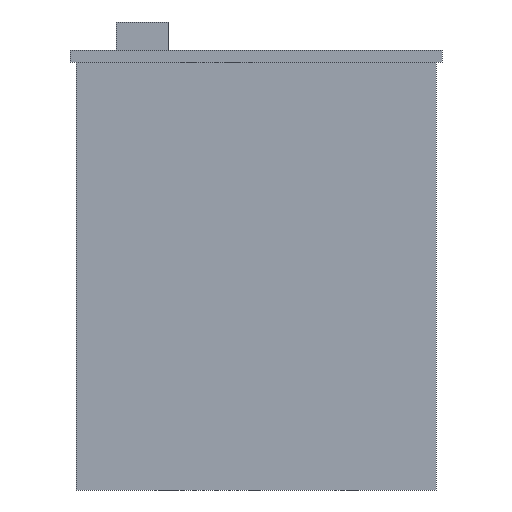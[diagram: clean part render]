
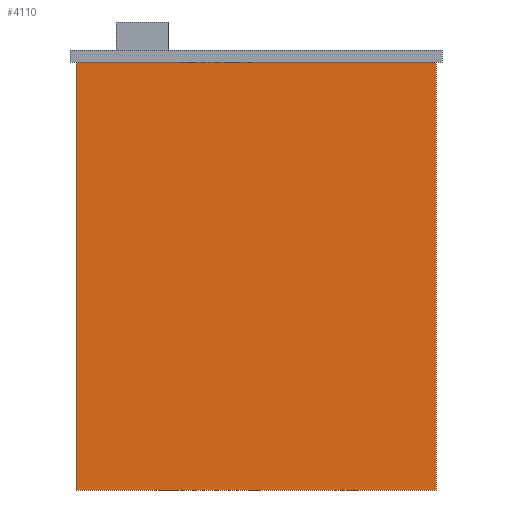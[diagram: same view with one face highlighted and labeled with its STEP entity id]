
A CAD part, left-side view. The second image highlights one B-rep face of the part: STEP entity #4110.
In plain terms, the highlighted planar face has unit normal (-1, 0, 0).
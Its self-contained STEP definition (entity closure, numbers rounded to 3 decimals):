
#1026 = PLANE('',#1027);
#1027 = AXIS2_PLACEMENT_3D('',#1028,#1029,#1030);
#1028 = CARTESIAN_POINT('',(-93.,-93.,220.));
#1029 = DIRECTION('',(0.,0.,1.));
#1030 = DIRECTION('',(1.,0.,0.));
#2404 = VERTEX_POINT('',#2405);
#2405 = CARTESIAN_POINT('',(-90.,-90.,220.));
#2418 = PLANE('',#2419);
#2419 = AXIS2_PLACEMENT_3D('',#2420,#2421,#2422);
#2420 = CARTESIAN_POINT('',(-90.,-90.,6.));
#2421 = DIRECTION('',(0.,1.,0.));
#2422 = DIRECTION('',(0.,0.,1.));
#2429 = EDGE_CURVE('',#2430,#2404,#2432,.T.);
#2430 = VERTEX_POINT('',#2431);
#2431 = CARTESIAN_POINT('',(-90.,90.,220.));
#2432 = SURFACE_CURVE('',#2433,(#2437,#2443),.PCURVE_S1.);
#2433 = LINE('',#2434,#2435);
#2434 = CARTESIAN_POINT('',(-90.,-91.5,220.));
#2435 = VECTOR('',#2436,1.);
#2436 = DIRECTION('',(0.,-1.,0.));
#2437 = PCURVE('',#1026,#2438);
#2438 = DEFINITIONAL_REPRESENTATION('',(#2439),#2442);
#2439 = B_SPLINE_CURVE_WITH_KNOTS('',1,(#2440,#2441),.UNSPECIFIED.,.F.,
  .F.,(2,2),(-181.5,-1.5),.PIECEWISE_BEZIER_KNOTS.);
#2440 = CARTESIAN_POINT('',(3.,183.));
#2441 = CARTESIAN_POINT('',(3.,3.));
#2442 = ( GEOMETRIC_REPRESENTATION_CONTEXT(2) 
PARAMETRIC_REPRESENTATION_CONTEXT() REPRESENTATION_CONTEXT('2D SPACE',''
  ) );
#2443 = PCURVE('',#2444,#2449);
#2444 = PLANE('',#2445);
#2445 = AXIS2_PLACEMENT_3D('',#2446,#2447,#2448);
#2446 = CARTESIAN_POINT('',(-90.,-90.,6.));
#2447 = DIRECTION('',(1.,0.,0.));
#2448 = DIRECTION('',(0.,0.,1.));
#2449 = DEFINITIONAL_REPRESENTATION('',(#2450),#2453);
#2450 = B_SPLINE_CURVE_WITH_KNOTS('',1,(#2451,#2452),.UNSPECIFIED.,.F.,
  .F.,(2,2),(-181.5,-1.5),.PIECEWISE_BEZIER_KNOTS.);
#2451 = CARTESIAN_POINT('',(214.,-180.));
#2452 = CARTESIAN_POINT('',(214.,0.));
#2453 = ( GEOMETRIC_REPRESENTATION_CONTEXT(2) 
PARAMETRIC_REPRESENTATION_CONTEXT() REPRESENTATION_CONTEXT('2D SPACE',''
  ) );
#2470 = PLANE('',#2471);
#2471 = AXIS2_PLACEMENT_3D('',#2472,#2473,#2474);
#2472 = CARTESIAN_POINT('',(-90.,90.,6.));
#2473 = DIRECTION('',(0.,1.,0.));
#2474 = DIRECTION('',(0.,0.,1.));
#2564 = PLANE('',#2565);
#2565 = AXIS2_PLACEMENT_3D('',#2566,#2567,#2568);
#2566 = CARTESIAN_POINT('',(-90.,-90.,6.));
#2567 = DIRECTION('',(0.,0.,1.));
#2568 = DIRECTION('',(1.,0.,0.));
#4067 = VERTEX_POINT('',#4068);
#4068 = CARTESIAN_POINT('',(-90.,90.,6.));
#4089 = EDGE_CURVE('',#4067,#2430,#4090,.T.);
#4090 = SURFACE_CURVE('',#4091,(#4095,#4102),.PCURVE_S1.);
#4091 = LINE('',#4092,#4093);
#4092 = CARTESIAN_POINT('',(-90.,90.,6.));
#4093 = VECTOR('',#4094,1.);
#4094 = DIRECTION('',(0.,0.,1.));
#4095 = PCURVE('',#2470,#4096);
#4096 = DEFINITIONAL_REPRESENTATION('',(#4097),#4101);
#4097 = LINE('',#4098,#4099);
#4098 = CARTESIAN_POINT('',(0.,0.));
#4099 = VECTOR('',#4100,1.);
#4100 = DIRECTION('',(1.,0.));
#4101 = ( GEOMETRIC_REPRESENTATION_CONTEXT(2) 
PARAMETRIC_REPRESENTATION_CONTEXT() REPRESENTATION_CONTEXT('2D SPACE',''
  ) );
#4102 = PCURVE('',#2444,#4103);
#4103 = DEFINITIONAL_REPRESENTATION('',(#4104),#4108);
#4104 = LINE('',#4105,#4106);
#4105 = CARTESIAN_POINT('',(0.,-180.));
#4106 = VECTOR('',#4107,1.);
#4107 = DIRECTION('',(1.,0.));
#4108 = ( GEOMETRIC_REPRESENTATION_CONTEXT(2) 
PARAMETRIC_REPRESENTATION_CONTEXT() REPRESENTATION_CONTEXT('2D SPACE',''
  ) );
#4110 = ADVANCED_FACE('',(#4111),#2444,.F.);
#4111 = FACE_BOUND('',#4112,.F.);
#4112 = EDGE_LOOP('',(#4113,#4136,#4157,#4158));
#4113 = ORIENTED_EDGE('',*,*,#4114,.F.);
#4114 = EDGE_CURVE('',#4115,#2404,#4117,.T.);
#4115 = VERTEX_POINT('',#4116);
#4116 = CARTESIAN_POINT('',(-90.,-90.,6.));
#4117 = SURFACE_CURVE('',#4118,(#4122,#4129),.PCURVE_S1.);
#4118 = LINE('',#4119,#4120);
#4119 = CARTESIAN_POINT('',(-90.,-90.,6.));
#4120 = VECTOR('',#4121,1.);
#4121 = DIRECTION('',(0.,0.,1.));
#4122 = PCURVE('',#2444,#4123);
#4123 = DEFINITIONAL_REPRESENTATION('',(#4124),#4128);
#4124 = LINE('',#4125,#4126);
#4125 = CARTESIAN_POINT('',(0.,0.));
#4126 = VECTOR('',#4127,1.);
#4127 = DIRECTION('',(1.,0.));
#4128 = ( GEOMETRIC_REPRESENTATION_CONTEXT(2) 
PARAMETRIC_REPRESENTATION_CONTEXT() REPRESENTATION_CONTEXT('2D SPACE',''
  ) );
#4129 = PCURVE('',#2418,#4130);
#4130 = DEFINITIONAL_REPRESENTATION('',(#4131),#4135);
#4131 = LINE('',#4132,#4133);
#4132 = CARTESIAN_POINT('',(0.,0.));
#4133 = VECTOR('',#4134,1.);
#4134 = DIRECTION('',(1.,0.));
#4135 = ( GEOMETRIC_REPRESENTATION_CONTEXT(2) 
PARAMETRIC_REPRESENTATION_CONTEXT() REPRESENTATION_CONTEXT('2D SPACE',''
  ) );
#4136 = ORIENTED_EDGE('',*,*,#4137,.T.);
#4137 = EDGE_CURVE('',#4115,#4067,#4138,.T.);
#4138 = SURFACE_CURVE('',#4139,(#4143,#4150),.PCURVE_S1.);
#4139 = LINE('',#4140,#4141);
#4140 = CARTESIAN_POINT('',(-90.,-90.,6.));
#4141 = VECTOR('',#4142,1.);
#4142 = DIRECTION('',(0.,1.,0.));
#4143 = PCURVE('',#2444,#4144);
#4144 = DEFINITIONAL_REPRESENTATION('',(#4145),#4149);
#4145 = LINE('',#4146,#4147);
#4146 = CARTESIAN_POINT('',(0.,0.));
#4147 = VECTOR('',#4148,1.);
#4148 = DIRECTION('',(0.,-1.));
#4149 = ( GEOMETRIC_REPRESENTATION_CONTEXT(2) 
PARAMETRIC_REPRESENTATION_CONTEXT() REPRESENTATION_CONTEXT('2D SPACE',''
  ) );
#4150 = PCURVE('',#2564,#4151);
#4151 = DEFINITIONAL_REPRESENTATION('',(#4152),#4156);
#4152 = LINE('',#4153,#4154);
#4153 = CARTESIAN_POINT('',(0.,0.));
#4154 = VECTOR('',#4155,1.);
#4155 = DIRECTION('',(0.,1.));
#4156 = ( GEOMETRIC_REPRESENTATION_CONTEXT(2) 
PARAMETRIC_REPRESENTATION_CONTEXT() REPRESENTATION_CONTEXT('2D SPACE',''
  ) );
#4157 = ORIENTED_EDGE('',*,*,#4089,.T.);
#4158 = ORIENTED_EDGE('',*,*,#2429,.T.);
